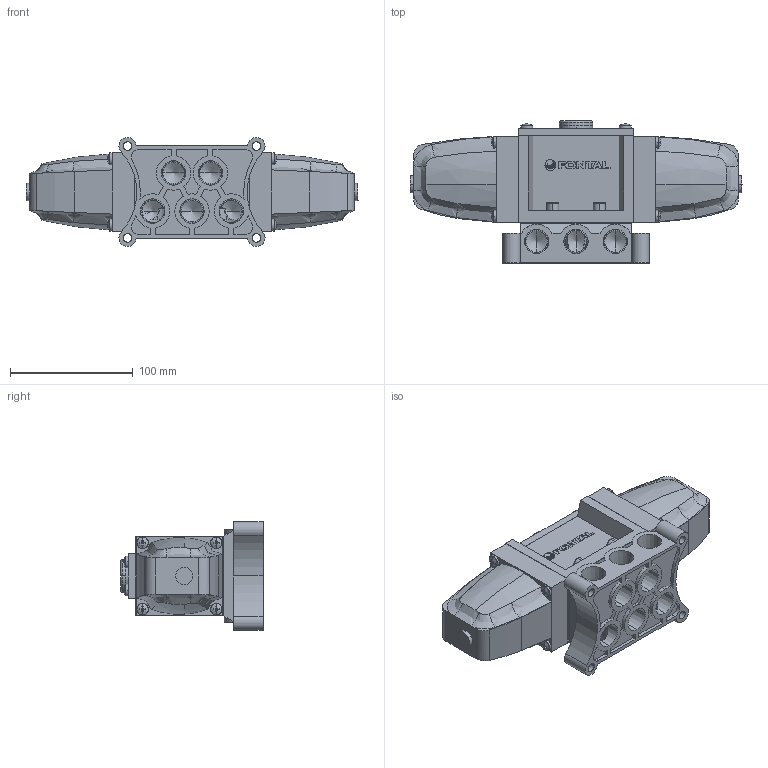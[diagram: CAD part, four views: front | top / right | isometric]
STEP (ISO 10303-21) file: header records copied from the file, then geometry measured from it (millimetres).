
FILE_DESCRIPTION (( 'STEP AP203' ), '1' );
FILE_NAME ('AD2410-04-##.STEP', '2016-03-09T03:14:55', ( 'Sam Lin' ), ( '' ), 'SwSTEP 2.0', 'SolidWorks 2013', '' );
FILE_SCHEMA (( 'CONFIG_CONTROL_DESIGN' ));
Length unit declared in the file: metre
Products named in the file (10): AS2410-4; ISO 4762 M6 x 16; AS2410-5; AS2410-6=04; AS2410-1; AD2410-04-##; A10-MARK; AS2310-3; ISO 7045 - M5 x 16; AS2410-3
Assembly tree (24 placements, depth 2):
  AD2410-04-##
    AS2410-1
    A10-MARK
    AS2310-3  x2
    ISO 7045 - M5 x 16  x12
    AS2410-3
    AS2410-4
    ISO 4762 M6 x 16  x4
    AS2410-5
    AS2410-6=04
Bounding box: 270 x 115.6 x 88.6 mm (x, y, z)
Volume: 1041547.5 mm3; surface area: 166198.2 mm2
Topology: 30 solids, 30 shells, 935 faces, 2400 edges, 1509 vertices
Faces by surface type: plane 461, cylinder 217, bspline 130, cone 127
Entity records: 17575 total; most frequent: CARTESIAN_POINT 5384, ORIENTED_EDGE 2282, DIRECTION 2178, EDGE_CURVE 1141, AXIS2_PLACEMENT_3D 794, VERTEX_POINT 749, LINE 590, VECTOR 590
